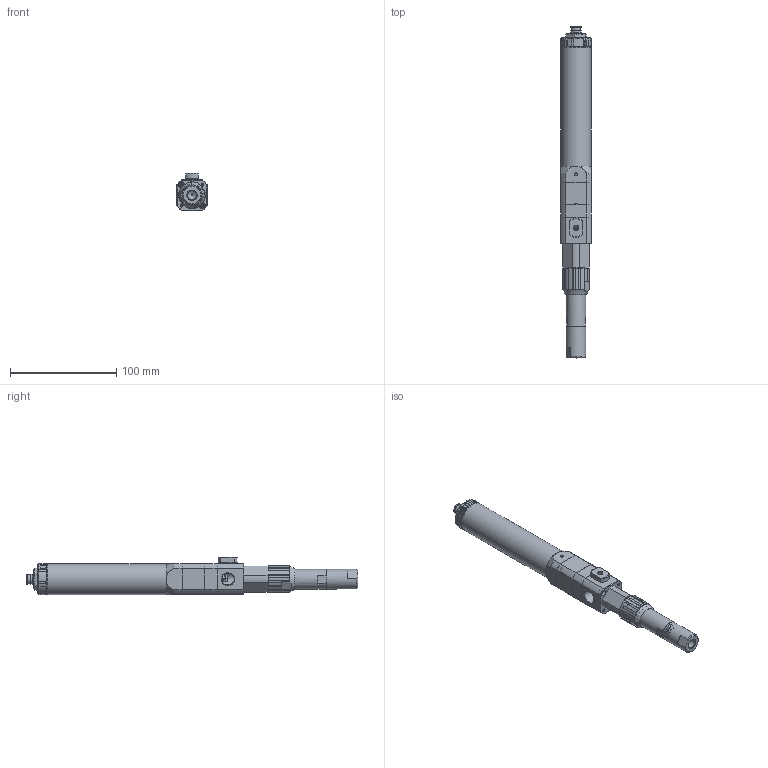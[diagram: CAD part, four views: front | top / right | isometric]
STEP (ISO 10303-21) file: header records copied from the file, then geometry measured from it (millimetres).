
FILE_DESCRIPTION (( 'STEP AP214' ), '1' );
FILE_NAME ('PCP-1000-14.STEP', '2024-10-11T11:37:26', ( '' ), ( '' ), 'SwSTEP 2.0', 'SolidWorks 2024', '' );
FILE_SCHEMA (( 'AUTOMOTIVE_DESIGN' ));
Length unit declared in the file: millimetre
Products named in the file (1): PCP-1000-14
Bounding box: 29 x 312.5 x 35 mm (x, y, z)
Volume: 86196.4 mm3; surface area: 80828.5 mm2
Topology: 28 solids, 28 shells, 1551 faces, 4055 edges, 2650 vertices
Faces by surface type: plane 916, cylinder 337, cone 181, bspline 71, sphere 32, torus 14
Full cylindrical faces by diameter (mm): 0.6 x1, 0.8 x4, 1 x5, 1.5 x2, 2 x1, 2.5 x12, 3 x2, 3.5 x15, 4 x1, 4.2 x1, 4.8 x1, 5 x1, 5.2 x1, 5.8 x7, 6 x7, 6.6 x3, 6.8 x1, 8 x2, 8.178 x1, 8.5 x1, 9 x4, 9.6 x2, 10 x3, 10.008 x2, 10.8 x2, 11 x1, 11.2 x1, 12 x1, 12.05 x4, 12.158 x4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
Entity records: 53094 total; most frequent: CARTESIAN_POINT 19375, ORIENTED_EDGE 6984, DIRECTION 6444, EDGE_CURVE 3492, AXIS2_PLACEMENT_3D 2566, VERTEX_POINT 2463, EDGE_LOOP 2111, FACE_OUTER_BOUND 1762
